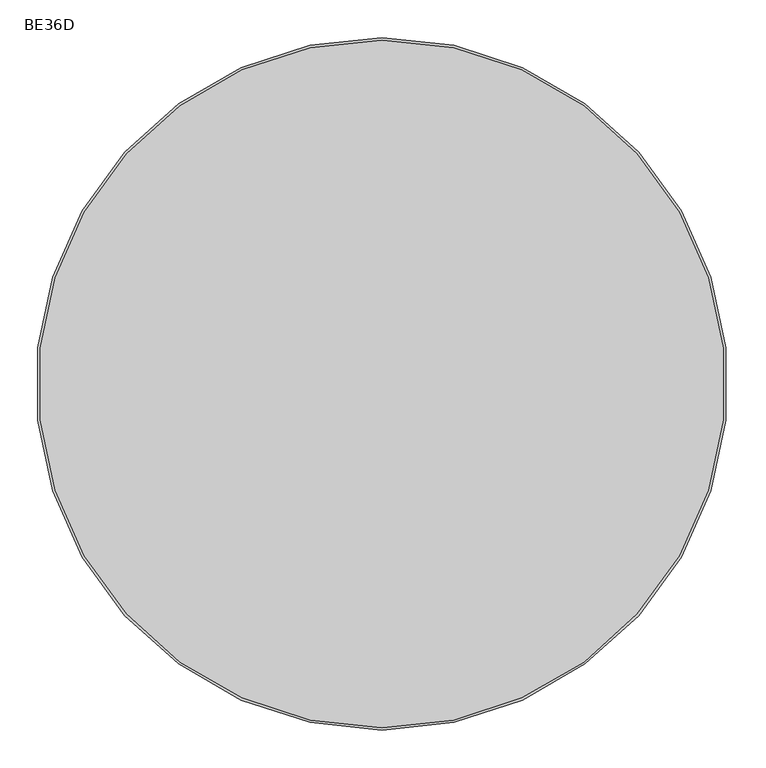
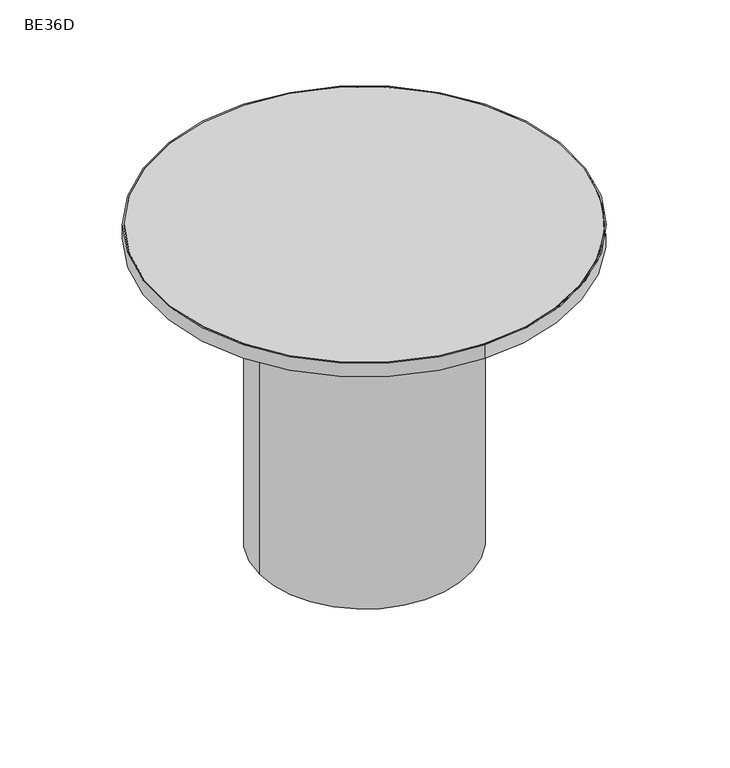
"""IFC4 building model written with IfcOpenShell, lengths in millimetres: furniture geometry, ERG-Beta-Conference_Table-Round : BE36D."""

from ifc_helpers import new_model, si_unit, point, frame, frame_2d, origin, origin_with_axes, place, context, project, spatial, circle_curve, trimmed, segment, composite_curve, outline, extrude, source, transform, mapped, element, save


def be36d_b31a16cc(model_context):
    return source(origin(), model_context, "Body", "SweptSolid", [
        extrude(outline(composite_curve([segment(trimmed(circle_curve(frame_2d((406.7956425, 189.8558845)), 9.525), [point((397.2706425, 189.8558845))], [point((416.3206425, 189.8558845))], False, "CARTESIAN"), True, "CONTINUOUS"), segment(trimmed(circle_curve(frame_2d((406.7956425, 189.8558845)), 9.525), [point((416.3206425, 189.8558845))], [point((397.2706425, 189.8558845))], False, "CARTESIAN"), True, "CONTINUOUS")], self_intersect=False)), origin_with_axes(), (0.0, 0.0, 1.0), 9.525),
        extrude(outline(composite_curve([segment(trimmed(circle_curve(frame_2d((679.0543575, 189.8558845)), 9.525), [point((669.5293575, 189.8558845))], [point((688.5793575, 189.8558845))], False, "CARTESIAN"), True, "CONTINUOUS"), segment(trimmed(circle_curve(frame_2d((679.0543575, 189.8558845)), 9.525), [point((688.5793575, 189.8558845))], [point((669.5293575, 189.8558845))], False, "CARTESIAN"), True, "CONTINUOUS")], self_intersect=False)), origin_with_axes(), (0.0, 0.0, 1.0), 9.525),
        extrude(outline(composite_curve([segment(trimmed(circle_curve(frame_2d((406.7956425, -82.4028306)), 9.525), [point((397.2706425, -82.4028306))], [point((416.3206425, -82.4028306))], False, "CARTESIAN"), True, "CONTINUOUS"), segment(trimmed(circle_curve(frame_2d((406.7956425, -82.4028306)), 9.525), [point((416.3206425, -82.4028306))], [point((397.2706425, -82.4028306))], False, "CARTESIAN"), True, "CONTINUOUS")], self_intersect=False)), origin_with_axes(), (0.0, 0.0, 1.0), 9.525),
        extrude(outline(composite_curve([segment(trimmed(circle_curve(frame_2d((679.0543575, -82.4028306)), 9.525), [point((669.5293575, -82.4028306))], [point((688.5793575, -82.4028306))], False, "CARTESIAN"), True, "CONTINUOUS"), segment(trimmed(circle_curve(frame_2d((679.0543575, -82.4028306)), 9.525), [point((688.5793575, -82.4028306))], [point((669.5293575, -82.4028306))], False, "CARTESIAN"), True, "CONTINUOUS")], self_intersect=False)), origin_with_axes(), (0.0, 0.0, 1.0), 9.525),
        extrude(outline(composite_curve([segment(trimmed(circle_curve(frame_2d((542.925, 53.726527)), 228.6), [point((314.325, 53.726527))], [point((771.525, 53.726527))], False, "CARTESIAN"), True, "CONTINUOUS"), segment(trimmed(circle_curve(frame_2d((542.925, 53.726527)), 228.6), [point((771.525, 53.726527))], [point((314.325, 53.726527))], False, "CARTESIAN"), True, "CONTINUOUS")], self_intersect=False)), frame((0.0, 0.0, 9.525), z_axis=(0.0, 0.0, 1.0), x_axis=(1.0, 0.0, 0.0)), (0.0, 0.0, 1.0), 695.3249758),
        extrude(outline(composite_curve([segment(trimmed(circle_curve(frame_2d((542.925, 53.726527)), 454.025), [point((542.925, -400.298473))], [point((542.925, 507.751527))], False, "CARTESIAN"), True, "CONTINUOUS"), segment(trimmed(circle_curve(frame_2d((542.925, 53.726527)), 454.025), [point((542.925, 507.751527))], [point((542.925, -400.298473))], False, "CARTESIAN"), True, "CONTINUOUS")], self_intersect=False)), frame((0.0, 0.0, 704.85), z_axis=(0.0, 0.0, 1.0), x_axis=(1.0, 0.0, 0.0)), (0.0, 0.0, 1.0), 31.75),
        extrude(outline(composite_curve([segment(trimmed(circle_curve(frame_2d((542.925, 53.726527)), 457.2), [point((542.925, -403.473473))], [point((542.925, 510.926527))], False, "CARTESIAN"), True, "CONTINUOUS"), segment(trimmed(circle_curve(frame_2d((542.925, 53.726527)), 457.2), [point((542.925, 510.926527))], [point((542.925, -403.473473))], False, "CARTESIAN"), True, "CONTINUOUS")], self_intersect=False), holes=[composite_curve([segment(trimmed(circle_curve(frame_2d((542.925, 53.726527)), 454.025), [point((542.925, 507.751527))], [point((542.925, -400.298473))], True, "CARTESIAN"), True, "CONTINUOUS"), segment(trimmed(circle_curve(frame_2d((542.925, 53.726527)), 454.025), [point((542.925, -400.298473))], [point((542.925, 507.751527))], True, "CARTESIAN"), True, "CONTINUOUS")], self_intersect=False)]), frame((0.0, 0.0, 704.85), z_axis=(0.0, 0.0, 1.0), x_axis=(1.0, 0.0, 0.0)), (0.0, 0.0, 1.0), 31.75),
    ])


if __name__ == "__main__":
    model = new_model("IFC4")
    model_context = context("Model", 3, world=origin())
    ifc_project = project(units=[si_unit("LENGTHUNIT", "METRE", prefix="MILLI")], contexts=[model_context])
    site = spatial("IfcSite", under=ifc_project)
    building = spatial("IfcBuilding", under=site)
    placement = place(None, origin())
    be36d_shape = be36d_b31a16cc(model_context)
    element("IfcFurniture", 1, ObjectType="ERG-Beta-Conference_Table-Round : BE36D", at=placement, inside=building, context=model_context, shape_type="MappedRepresentation", body=[
        mapped(be36d_shape, transform((0.0, 0.0, 0.0), x_axis=(1.0, 0.0, 0.0), y_axis=(0.0, 1.0, 0.0), z_axis=(0.0, 0.0, 1.0))),
    ])
    save(model, "model.ifc")
